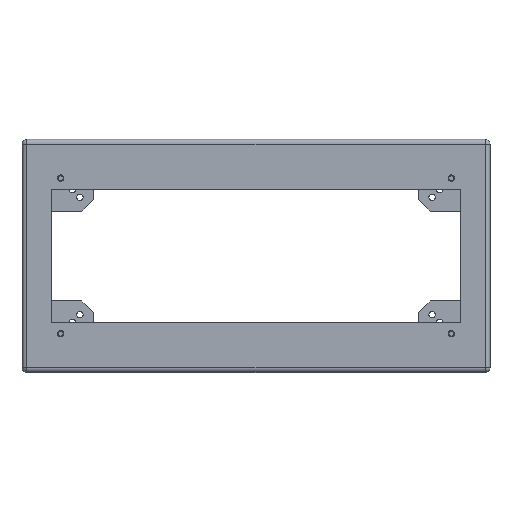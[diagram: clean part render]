
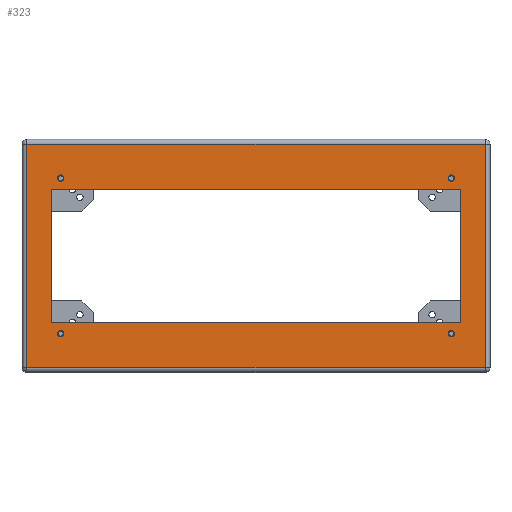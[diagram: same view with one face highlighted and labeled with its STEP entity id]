
A CAD part, top view. The second image highlights one B-rep face of the part: STEP entity #323.
In plain terms, the highlighted planar face has unit normal (0, 0, 1).
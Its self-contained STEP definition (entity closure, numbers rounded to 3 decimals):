
#323=ADVANCED_FACE('',(#1556,#1558,#1560,#1562,#1564,#1566),#1568,.T.);
#1556=FACE_BOUND('',#1557,.T.);
#1557=EDGE_LOOP('',(#2606,#2607,#2608,#2609));
#1558=FACE_BOUND('',#1559,.T.);
#1559=EDGE_LOOP('',(#2610));
#1560=FACE_BOUND('',#1561,.T.);
#1561=EDGE_LOOP('',(#2611));
#1562=FACE_BOUND('',#1563,.T.);
#1563=EDGE_LOOP('',(#2612));
#1564=FACE_BOUND('',#1565,.T.);
#1565=EDGE_LOOP('',(#2613));
#1566=FACE_BOUND('',#1567,.T.);
#1567=EDGE_LOOP('',(#2614,#2615,#2616,#2617));
#1568=PLANE('',#1569);
#1569=AXIS2_PLACEMENT_3D('',#1570,#1571,#1572);
#1570=CARTESIAN_POINT('',(0.,0.,100.));
#1571=DIRECTION('',(0.,0.,1.));
#1572=DIRECTION('',(0.,1.,0.));
#2606=ORIENTED_EDGE('',*,*,#3129,.T.);
#2607=ORIENTED_EDGE('',*,*,#3130,.T.);
#2608=ORIENTED_EDGE('',*,*,#3131,.T.);
#2609=ORIENTED_EDGE('',*,*,#3132,.T.);
#2610=ORIENTED_EDGE('',*,*,#3133,.T.);
#2611=ORIENTED_EDGE('',*,*,#3134,.T.);
#2612=ORIENTED_EDGE('',*,*,#3135,.T.);
#2613=ORIENTED_EDGE('',*,*,#3136,.T.);
#2614=ORIENTED_EDGE('',*,*,#3085,.T.);
#2615=ORIENTED_EDGE('',*,*,#3092,.T.);
#2616=ORIENTED_EDGE('',*,*,#3090,.T.);
#2617=ORIENTED_EDGE('',*,*,#3088,.T.);
#3085=EDGE_CURVE('',#3404,#3405,#3406,.F.);
#3088=EDGE_CURVE('',#3409,#3404,#3410,.F.);
#3090=EDGE_CURVE('',#3412,#3409,#3413,.F.);
#3092=EDGE_CURVE('',#3405,#3412,#3415,.F.);
#3129=EDGE_CURVE('',#3480,#3481,#3482,.T.);
#3130=EDGE_CURVE('',#3481,#3483,#3484,.T.);
#3131=EDGE_CURVE('',#3483,#3485,#3486,.T.);
#3132=EDGE_CURVE('',#3485,#3480,#3487,.T.);
#3133=EDGE_CURVE('',#3488,#3488,#3489,.F.);
#3134=EDGE_CURVE('',#3490,#3490,#3491,.F.);
#3135=EDGE_CURVE('',#3492,#3492,#3493,.F.);
#3136=EDGE_CURVE('',#3494,#3494,#3495,.F.);
#3404=VERTEX_POINT('',#4444);
#3405=VERTEX_POINT('',#4445);
#3406=LINE('',#4446,#4447);
#3409=VERTEX_POINT('',#4455);
#3410=LINE('',#4456,#4457);
#3412=VERTEX_POINT('',#4462);
#3413=LINE('',#4463,#4464);
#3415=LINE('',#4469,#4470);
#3480=VERTEX_POINT('',#5304);
#3481=VERTEX_POINT('',#5305);
#3482=LINE('',#5306,#5307);
#3483=VERTEX_POINT('',#5309);
#3484=LINE('',#5310,#5311);
#3485=VERTEX_POINT('',#5313);
#3486=LINE('',#5314,#5315);
#3487=LINE('',#5317,#5318);
#3488=VERTEX_POINT('',#5320);
#3489=CIRCLE('',#5321,5.5);
#3490=VERTEX_POINT('',#5325);
#3491=CIRCLE('',#5326,5.5);
#3492=VERTEX_POINT('',#5330);
#3493=CIRCLE('',#5331,5.5);
#3494=VERTEX_POINT('',#5335);
#3495=CIRCLE('',#5336,5.5);
#4444=CARTESIAN_POINT('',(-348.5,113.5,100.));
#4445=CARTESIAN_POINT('',(348.5,113.5,100.));
#4446=CARTESIAN_POINT('',(348.5,113.5,100.));
#4447=VECTOR('',#4448,1.);
#4448=DIRECTION('',(-1.,0.,0.));
#4455=CARTESIAN_POINT('',(-348.5,-113.5,100.));
#4456=CARTESIAN_POINT('',(-348.5,113.5,100.));
#4457=VECTOR('',#4458,1.);
#4458=DIRECTION('',(0.,-1.,0.));
#4462=CARTESIAN_POINT('',(348.5,-113.5,100.));
#4463=CARTESIAN_POINT('',(-348.5,-113.5,100.));
#4464=VECTOR('',#4465,1.);
#4465=DIRECTION('',(1.,0.,0.));
#4469=CARTESIAN_POINT('',(348.5,-113.5,100.));
#4470=VECTOR('',#4471,1.);
#4471=DIRECTION('',(0.,1.,0.));
#5304=CARTESIAN_POINT('',(390.5,190.5,100.));
#5305=CARTESIAN_POINT('',(-390.5,190.5,100.));
#5306=CARTESIAN_POINT('',(390.5,190.5,100.));
#5307=VECTOR('',#5308,1.);
#5308=DIRECTION('',(-1.,0.,0.));
#5309=CARTESIAN_POINT('',(-390.5,-190.5,100.));
#5310=CARTESIAN_POINT('',(-390.5,190.5,100.));
#5311=VECTOR('',#5312,1.);
#5312=DIRECTION('',(0.,-1.,0.));
#5313=CARTESIAN_POINT('',(390.5,-190.5,100.));
#5314=CARTESIAN_POINT('',(-390.5,-190.5,100.));
#5315=VECTOR('',#5316,1.);
#5316=DIRECTION('',(1.,0.,0.));
#5317=CARTESIAN_POINT('',(390.5,-190.5,100.));
#5318=VECTOR('',#5319,1.);
#5319=DIRECTION('',(0.,1.,0.));
#5320=CARTESIAN_POINT('',(332.5,138.,100.));
#5321=AXIS2_PLACEMENT_3D('',#5322,#5323,#5324);
#5322=CARTESIAN_POINT('',(332.5,132.5,100.));
#5323=DIRECTION('',(0.,0.,1.));
#5324=DIRECTION('',(0.,1.,0.));
#5325=CARTESIAN_POINT('',(332.5,-127.,100.));
#5326=AXIS2_PLACEMENT_3D('',#5327,#5328,#5329);
#5327=CARTESIAN_POINT('',(332.5,-132.5,100.));
#5328=DIRECTION('',(0.,0.,1.));
#5329=DIRECTION('',(0.,1.,0.));
#5330=CARTESIAN_POINT('',(-332.5,138.,100.));
#5331=AXIS2_PLACEMENT_3D('',#5332,#5333,#5334);
#5332=CARTESIAN_POINT('',(-332.5,132.5,100.));
#5333=DIRECTION('',(0.,0.,1.));
#5334=DIRECTION('',(0.,1.,0.));
#5335=CARTESIAN_POINT('',(-332.5,-127.,100.));
#5336=AXIS2_PLACEMENT_3D('',#5337,#5338,#5339);
#5337=CARTESIAN_POINT('',(-332.5,-132.5,100.));
#5338=DIRECTION('',(0.,0.,1.));
#5339=DIRECTION('',(0.,1.,0.));
